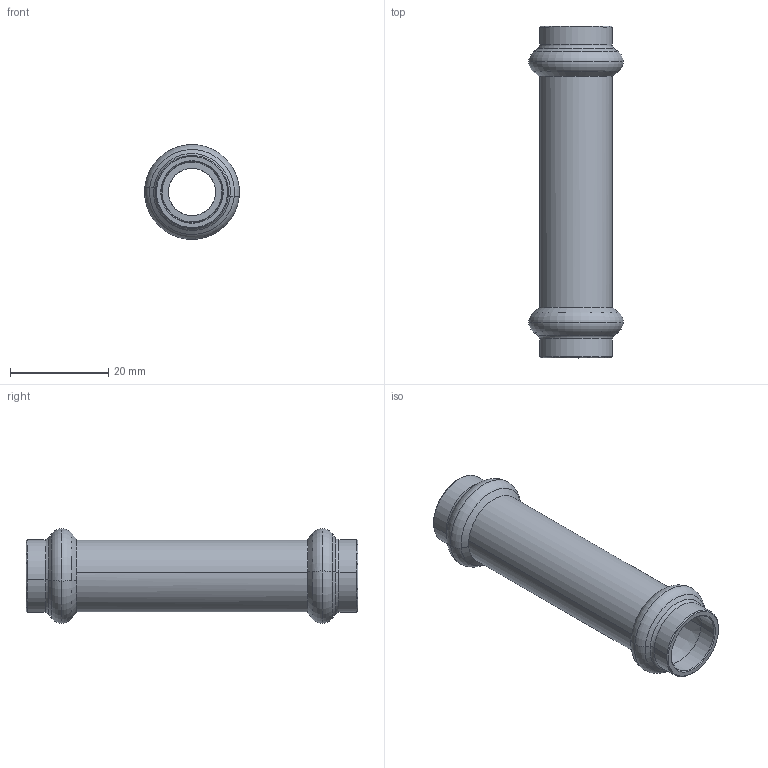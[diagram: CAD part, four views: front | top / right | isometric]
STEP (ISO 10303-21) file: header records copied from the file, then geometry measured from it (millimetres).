
FILE_DESCRIPTION(('CoCreate Modeling STEP Export'),'2;1');
FILE_NAME('8275VW12.stp','2013-01-29T12:41:57',(''),(''),'CoCreate Modeling STEP processor for AP214 (Solid Model)','CoCreate Modeling 17.00A 17-Jun-2010 (C) Parametric Technology GmbH','');
FILE_SCHEMA(('AUTOMOTIVE_DESIGN { 1 0 10303 214 1 1 1 1 }'));
Length unit declared in the file: millimetre
Products named in the file (1): 8275VW12
Bounding box: 19.26 x 67.6 x 19.26 mm (x, y, z)
Volume: 4763 mm3; surface area: 6311 mm2
Topology: 1 solids, 1 shells, 62 faces, 134 edges, 78 vertices
Faces by surface type: cylinder 20, cone 20, torus 16, plane 6
Entity records: 1356 total; most frequent: ORIENTED_EDGE 268, DIRECTION 206, CARTESIAN_POINT 201, EDGE_CURVE 134, AXIS2_PLACEMENT_3D 83, VERTEX_POINT 78, EDGE_LOOP 68, FACE_OUTER_BOUND 62
